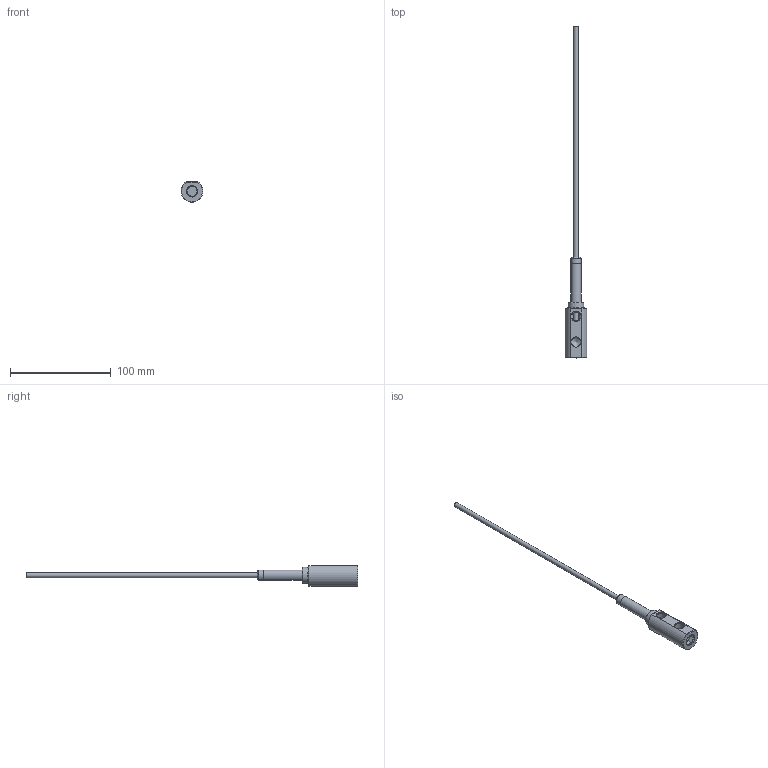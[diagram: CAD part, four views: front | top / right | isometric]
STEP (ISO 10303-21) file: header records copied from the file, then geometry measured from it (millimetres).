
FILE_DESCRIPTION(/* description */ (''),/* implementation_level */ '2;1');
FILE_NAME(/* name */ 'C:/Users/drich/Desktop/E181N v1.step',/* time_stamp */ '2020-01-15T19:31:07-06:00',/* author */ (''),/* organization */ (''),/* preprocessor_version */ 'ST-DEVELOPER v18',/* originating_system */ 'Autodesk Translation Framework v8.12.0.6',/* authorisation */ '');
FILE_SCHEMA (('AUTOMOTIVE_DESIGN { 1 0 10303 214 3 1 1 }'));
Length unit declared in the file: inch
Products named in the file (4): E181N; E181H; SSPN18-2; HF187T-12
Assembly tree (3 placements, depth 2):
  E181N
    E181H
    SSPN18-2
    HF187T-12
Bounding box: 21.84 x 329.87 x 20.37 mm (x, y, z)
Volume: 18870 mm3; surface area: 17352.6 mm2
Topology: 3 solids, 3 shells, 55 faces, 136 edges, 94 vertices
Faces by surface type: plane 22, cylinder 15, cone 14, torus 4
Full cylindrical faces by diameter (mm): 4.242 x1, 4.75 x1, 5.474 x1, 6.243 x1, 6.401 x1, 6.833 x1, 8.707 x3, 10.262 x2, 10.312 x1, 11.176 x1, 15.85 x1
Entity records: 1887 total; most frequent: CARTESIAN_POINT 396, DIRECTION 318, ORIENTED_EDGE 270, AXIS2_PLACEMENT_3D 138, EDGE_CURVE 135, VERTEX_POINT 94, CIRCLE 74, EDGE_LOOP 71
